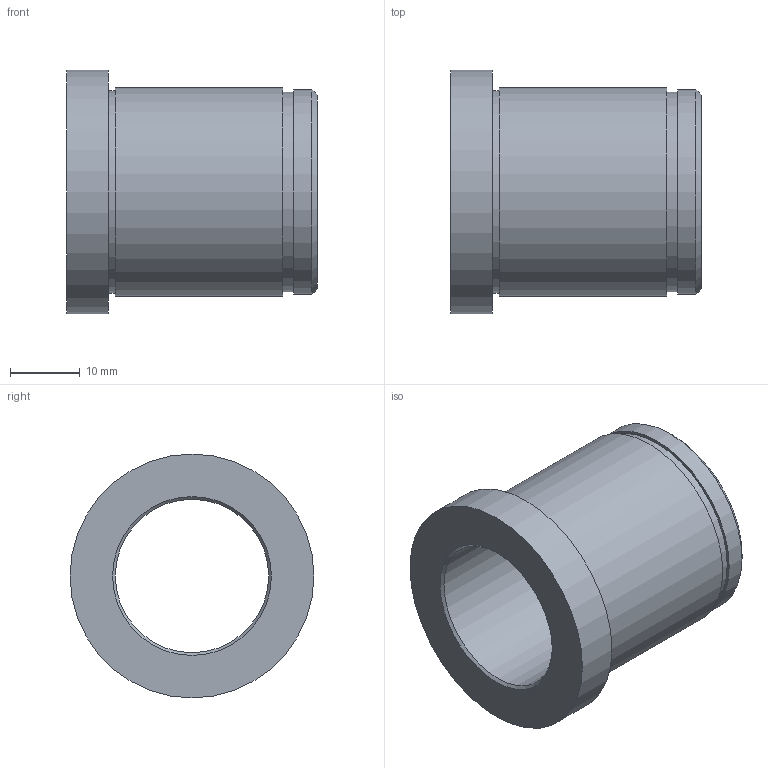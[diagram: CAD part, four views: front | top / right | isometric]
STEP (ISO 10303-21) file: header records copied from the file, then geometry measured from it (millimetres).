
FILE_DESCRIPTION(/* description */ ('Impex Ready, www.impex-ready.pl'),/* implementation_level */ '2;1');
FILE_NAME(/* name */ 'C:\Users\VIKKY\Nextcloud\SM\projekt 10 - części na stronę internetową\Pliki_3D_new\307 Tuleje BG05\307 BG05_STEP\BG05.022036.ipt.step',/* time_stamp */ '2021-12-21T17:22:26+01:00',/* author */ ('SM'),/* organization */ (''),/* preprocessor_version */ 'ST-DEVELOPER v18.1',/* originating_system */ 'Autodesk Inventor 2021',/* authorisation */ '');
FILE_SCHEMA (('AUTOMOTIVE_DESIGN { 1 0 10303 214 3 1 1 }'));
Length unit declared in the file: millimetre
Products named in the file (1): BG05.022036
Bounding box: 36 x 35 x 35 mm (x, y, z)
Volume: 13008.8 mm3; surface area: 7212.2 mm2
Topology: 1 solids, 1 shells, 15 faces, 27 edges, 18 vertices
Faces by surface type: cylinder 6, plane 6, cone 3
Full cylindrical faces by diameter (mm): 22 x1, 28.6 x1, 29 x1, 29.4 x1, 30 x1, 35 x1
Entity records: 457 total; most frequent: DIRECTION 77, CARTESIAN_POINT 61, ORIENTED_EDGE 54, AXIS2_PLACEMENT_3D 34, EDGE_CURVE 27, EDGE_LOOP 21, CIRCLE 18, VERTEX_POINT 18
